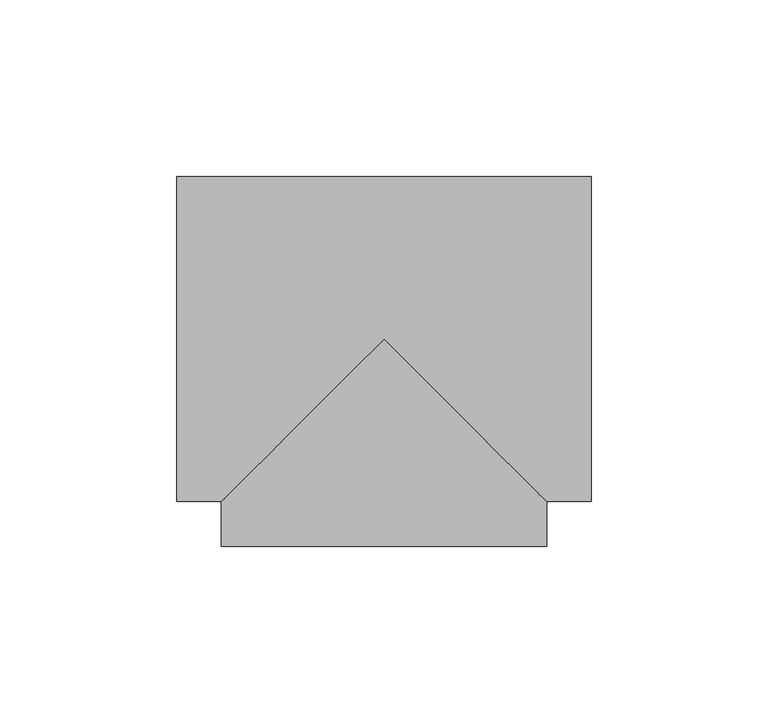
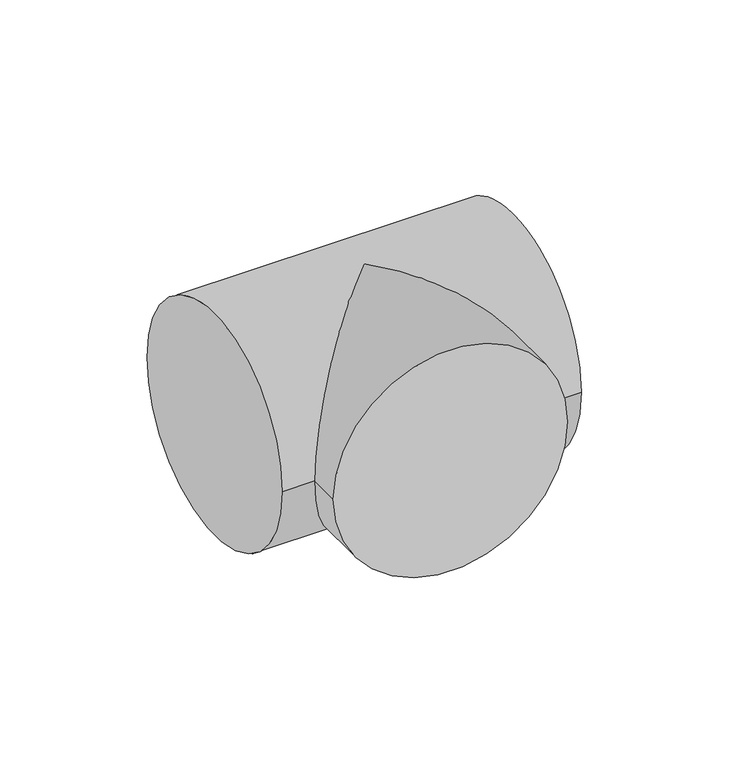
"""IFC4 building model written with IfcOpenShell, lengths in millimetres: pipe fitting geometry, M_Te - Genérica : Estándar."""

from ifc_helpers import new_model, si_unit, frame, origin, place, context, project, spatial, circle_curve, ellipse_curve, source, transform, mapped, element, save
from ifc_brep_helpers import plane_surface, cylinder_surface, advanced_brep


def pipe_fitting_d39ce7e0(model_context):
    return source(origin(), model_context, "Body", "AdvancedBrep", [
        advanced_brep(
        [(-58.7375, -46.0375, 0.0), (-58.7375, 46.0375, 0.0), (58.7375, -46.0375, 0.0), (58.7375, 46.0375, 0.0), (-46.0374522, -46.0375, 0.0), (0.0, 0.0, 46.0375), (46.0375478, -46.0375, 0.0), (0.0, 0.0, -46.0375), (-46.0374391, -58.7375478, 0.0), (46.0375609, -58.7374522, 0.0)],
        [
            (0, 1, circle_curve(frame((-58.7375, 0.0, 0.0), z_axis=(-1.0, 0.0, 0.0), x_axis=(0.0, 1.0, 0.0)), 46.0375)),
            (1, 0, circle_curve(frame((-58.7375, 0.0, 0.0), z_axis=(-1.0, 0.0, 0.0), x_axis=(0.0, 1.0, 0.0)), 46.0375)),
            (2, 3, circle_curve(frame((58.7375, 0.0, 0.0), z_axis=(1.0, 0.0, 0.0), x_axis=(0.0, 1.0, 0.0)), 46.0375)),
            (3, 2, circle_curve(frame((58.7375, 0.0, 0.0), z_axis=(1.0, 0.0, 0.0), x_axis=(0.0, 1.0, 0.0)), 46.0375)),
            (0, 4),
            (4, 5, ellipse_curve(frame((0.0, 0.0, 0.0), z_axis=(-0.7071071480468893, 0.7071064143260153, 0.0), x_axis=(-0.7071064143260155, -0.7071071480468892, 0.0)), 65.1068231, 46.0375)),
            (5, 6, ellipse_curve(frame((0.0, 0.0, 0.0), z_axis=(0.7071064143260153, 0.7071071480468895, 0.0), x_axis=(-0.7071071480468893, 0.7071064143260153, 0.0)), 65.1068907, 46.0375)),
            (6, 2),
            (3, 1),
            (6, 7, ellipse_curve(frame((0.0, 0.0, 0.0), z_axis=(0.7071064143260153, 0.7071071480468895, 0.0), x_axis=(-0.7071071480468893, 0.7071064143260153, 0.0)), 65.1068907, 46.0375)),
            (7, 4, ellipse_curve(frame((0.0, 0.0, 0.0), z_axis=(-0.7071071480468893, 0.7071064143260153, 0.0), x_axis=(-0.7071064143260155, -0.7071071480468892, 0.0)), 65.1068231, 46.0375)),
            (8, 9, circle_curve(frame((6.09e-05, -58.7375, 0.0), z_axis=(1.0376380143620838e-06, -0.9999999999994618, 0.0), x_axis=(0.9999999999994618, 1.0376380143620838e-06, 0.0)), 46.0375)),
            (9, 8, circle_curve(frame((6.09e-05, -58.7375, 0.0), z_axis=(1.0376380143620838e-06, -0.9999999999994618, 0.0), x_axis=(0.9999999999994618, 1.0376380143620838e-06, 0.0)), 46.0375)),
            (9, 6),
            (4, 8),
        ],
        [
            plane_surface(frame((-58.7375, 0.0, 0.0), z_axis=(-1.0, 0.0, 0.0), x_axis=(0.0, 0.0, 1.0))),
            plane_surface(frame((58.7375, 0.0, 0.0), z_axis=(1.0, 0.0, 0.0), x_axis=(0.0, 0.0, 1.0))),
            cylinder_surface(frame((-58.7375, 0.0, 0.0), z_axis=(-1.0, 0.0, 0.0), x_axis=(0.0, 1.0, 0.0)), 46.0375),
            plane_surface(frame((6.09e-05, -58.7375, 0.0), z_axis=(1.0376380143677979e-06, -0.9999999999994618, 0.0), x_axis=(0.0, 0.0, 1.0))),
            cylinder_surface(frame((0.0, 0.0, 0.0), z_axis=(-1.0376380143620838e-06, 0.9999999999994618, 0.0), x_axis=(0.9999999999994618, 1.0376380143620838e-06, 0.0)), 46.0375),
        ],
        [
            (0, [[1, 2]]),
            (1, [[3, 4]]),
            (2, [[-1, 5, 6, 7, 8, -4, 9]]),
            (2, [[-2, -9, -3, -8, 10, 11, -5]]),
            (3, [[12, 13]]),
            (4, [[-13, 14, -7, -6, 15]]),
            (4, [[-12, -15, -11, -10, -14]]),
        ],
    ),
    ])


if __name__ == "__main__":
    model = new_model("IFC4")
    model_context = context("Model", 3, world=origin())
    ifc_project = project(units=[si_unit("LENGTHUNIT", "METRE", prefix="MILLI")], contexts=[model_context])
    site = spatial("IfcSite", under=ifc_project)
    building = spatial("IfcBuilding", under=site)
    placement = place(None, origin())
    pipe_fitting_shape = pipe_fitting_d39ce7e0(model_context)
    element("IfcPipeFitting", 1, ObjectType="M_Te - Genérica : Estándar", at=placement, inside=building, context=model_context, shape_type="MappedRepresentation", body=[
        mapped(pipe_fitting_shape, transform((0.0, 0.0, 0.0), x_axis=(1.0, 0.0, 0.0), y_axis=(0.0, 1.0, 0.0), z_axis=(0.0, 0.0, 1.0))),
    ])
    save(model, "model.ifc")
